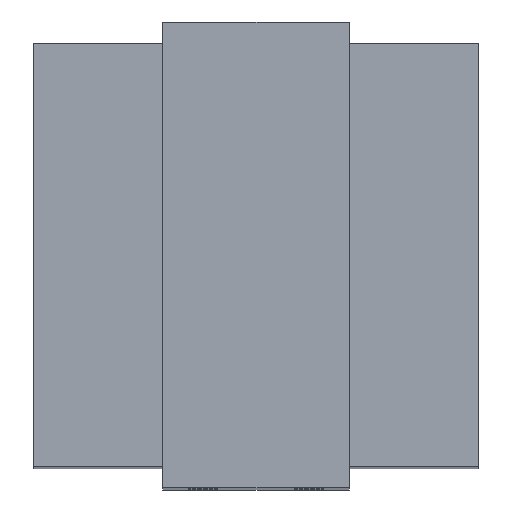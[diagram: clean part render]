
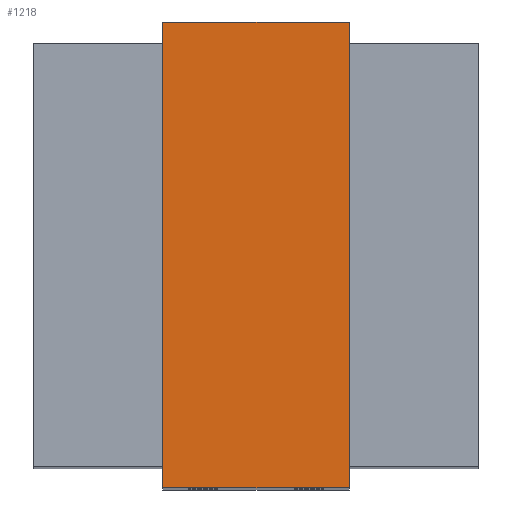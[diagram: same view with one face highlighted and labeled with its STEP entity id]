
A CAD part, top view. The second image highlights one B-rep face of the part: STEP entity #1218.
In plain terms, the highlighted planar face has unit normal (0, 0, 1).
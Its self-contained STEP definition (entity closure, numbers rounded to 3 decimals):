
#978 = EDGE_CURVE ( 'NONE', #1057, #988, #2942, .T. ) ;
#987 = EDGE_CURVE ( 'NONE', #988, #1086, #2929, .T. ) ;
#988 = VERTEX_POINT ( 'NONE', #2925 ) ;
#1057 = VERTEX_POINT ( 'NONE', #3068 ) ;
#1070 = EDGE_CURVE ( 'NONE', #1075, #1057, #3106, .T. ) ;
#1075 = VERTEX_POINT ( 'NONE', #3098 ) ;
#1086 = VERTEX_POINT ( 'NONE', #3148 ) ;
#1122 = EDGE_CURVE ( 'NONE', #1086, #1075, #3166, .T. ) ;
#1181 = ORIENTED_EDGE ( 'NONE', *, *, #978, .T. ) ;
#1182 = ORIENTED_EDGE ( 'NONE', *, *, #987, .T. ) ;
#1218 = ADVANCED_FACE ( 'NONE', ( #3287 ), #3346, .T. ) ;
#1219 = EDGE_LOOP ( 'NONE', ( #1220, #1221, #1181, #1182 ) ) ;
#1220 = ORIENTED_EDGE ( 'NONE', *, *, #1122, .T. ) ;
#1221 = ORIENTED_EDGE ( 'NONE', *, *, #1070, .T. ) ;
#2925 = CARTESIAN_POINT ( 'NONE',  ( 22., 10.318, 0. ) ) ;
#2926 = DIRECTION ( 'NONE',  ( 0., 1., 0. ) ) ;
#2927 = VECTOR ( 'NONE', #2926, 1000. ) ;
#2928 = CARTESIAN_POINT ( 'NONE',  ( 22., 120.318, 0. ) ) ;
#2929 = LINE ( 'NONE', #2928, #2927 ) ;
#2939 = DIRECTION ( 'NONE',  ( 1., 0., 0. ) ) ;
#2940 = VECTOR ( 'NONE', #2939, 1000. ) ;
#2941 = CARTESIAN_POINT ( 'NONE',  ( 22., 10.318, 0. ) ) ;
#2942 = LINE ( 'NONE', #2941, #2940 ) ;
#3068 = CARTESIAN_POINT ( 'NONE',  ( -22., 10.318, 0. ) ) ;
#3098 = CARTESIAN_POINT ( 'NONE',  ( -22., 120.318, 0. ) ) ;
#3103 = DIRECTION ( 'NONE',  ( 0., -1., 0. ) ) ;
#3104 = VECTOR ( 'NONE', #3103, 1000. ) ;
#3105 = CARTESIAN_POINT ( 'NONE',  ( -22., 10.318, 0. ) ) ;
#3106 = LINE ( 'NONE', #3105, #3104 ) ;
#3148 = CARTESIAN_POINT ( 'NONE',  ( 22., 120.318, 0. ) ) ;
#3163 = DIRECTION ( 'NONE',  ( -1., 0., 0. ) ) ;
#3164 = VECTOR ( 'NONE', #3163, 1000. ) ;
#3165 = CARTESIAN_POINT ( 'NONE',  ( 0., 120.318, 0. ) ) ;
#3166 = LINE ( 'NONE', #3165, #3164 ) ;
#3287 = FACE_OUTER_BOUND ( 'NONE', #1219, .T. ) ;
#3342 = DIRECTION ( 'NONE',  ( 1., 0., 0. ) ) ;
#3343 = DIRECTION ( 'NONE',  ( 0., 0., 1. ) ) ;
#3344 = CARTESIAN_POINT ( 'NONE',  ( -22., 120.318, 0. ) ) ;
#3345 = AXIS2_PLACEMENT_3D ( 'NONE', #3344, #3343, #3342 ) ;
#3346 = PLANE ( 'NONE',  #3345 ) ;
